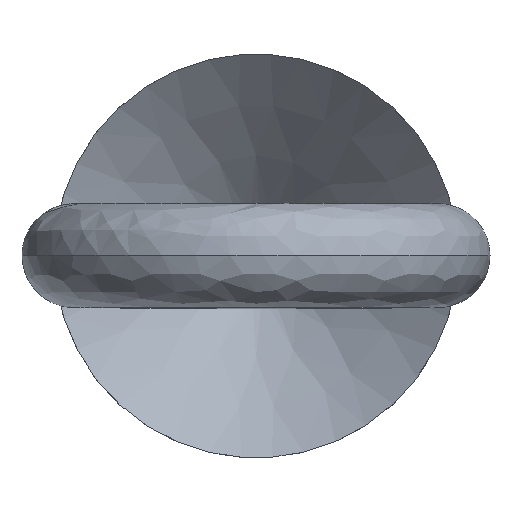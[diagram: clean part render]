
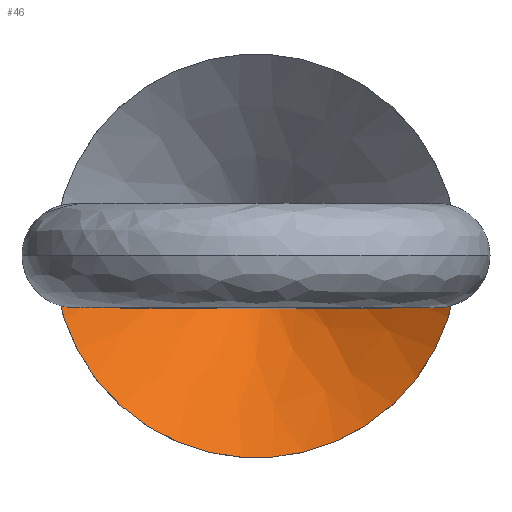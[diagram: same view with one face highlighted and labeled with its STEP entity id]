
A CAD part, top view. The second image highlights one B-rep face of the part: STEP entity #46.
In plain terms, the highlighted free-form (B-spline) face has degree [1, 2] with [2, 5] control points.
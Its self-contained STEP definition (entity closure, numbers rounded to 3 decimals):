
#17=FACE_BOUND('',#111,.T.);
#18=FACE_BOUND('',#112,.T.);
#46=ADVANCED_FACE('',(#77,#17,#18),#537,.T.);
#77=FACE_OUTER_BOUND('',#110,.T.);
#110=EDGE_LOOP('',(#268,#269,#270,#271));
#111=EDGE_LOOP('',(#272,#273,#274));
#112=EDGE_LOOP('',(#275,#276,#277));
#268=ORIENTED_EDGE('',*,*,#375,.T.);
#269=ORIENTED_EDGE('',*,*,#370,.T.);
#270=ORIENTED_EDGE('',*,*,#362,.F.);
#271=ORIENTED_EDGE('',*,*,#341,.T.);
#272=ORIENTED_EDGE('',*,*,#351,.T.);
#273=ORIENTED_EDGE('',*,*,#347,.T.);
#274=ORIENTED_EDGE('',*,*,#342,.T.);
#275=ORIENTED_EDGE('',*,*,#349,.T.);
#276=ORIENTED_EDGE('',*,*,#343,.T.);
#277=ORIENTED_EDGE('',*,*,#346,.T.);
#341=EDGE_CURVE('',#502,#521,#451,.T.);
#342=EDGE_CURVE('',#503,#504,#414,.T.);
#343=EDGE_CURVE('',#505,#506,#415,.T.);
#346=EDGE_CURVE('',#506,#511,#454,.T.);
#347=EDGE_CURVE('',#512,#503,#455,.T.);
#349=EDGE_CURVE('',#511,#505,#417,.T.);
#351=EDGE_CURVE('',#504,#512,#419,.T.);
#362=EDGE_CURVE('',#502,#499,#429,.T.);
#370=EDGE_CURVE('',#518,#499,#464,.T.);
#375=EDGE_CURVE('',#521,#518,#432,.T.);
#414=B_SPLINE_CURVE_WITH_KNOTS('',3,(#1121,#1122,#1123,#1124),
 .UNSPECIFIED.,.F.,.F.,(4,4),(0.,0.353),
 .UNSPECIFIED.);
#415=B_SPLINE_CURVE_WITH_KNOTS('',3,(#1125,#1126,#1127,#1128),
 .UNSPECIFIED.,.F.,.F.,(4,4),(2.288,2.654),
 .UNSPECIFIED.);
#417=B_SPLINE_CURVE_WITH_KNOTS('',3,(#1145,#1146,#1147,#1148),
 .UNSPECIFIED.,.F.,.F.,(4,4),(0.,0.228),.UNSPECIFIED.);
#419=B_SPLINE_CURVE_WITH_KNOTS('',3,(#1153,#1154,#1155,#1156),
 .UNSPECIFIED.,.F.,.F.,(4,4),(0.045,0.264),
 .UNSPECIFIED.);
#429=B_SPLINE_CURVE_WITH_KNOTS('',1,(#1181,#1182),.UNSPECIFIED.,.F.,.F.,
(2,2),(0.862,3.347),.UNSPECIFIED.);
#432=B_SPLINE_CURVE_WITH_KNOTS('',1,(#1230,#1231),.UNSPECIFIED.,.F.,.F.,
(2,2),(0.862,3.347),.UNSPECIFIED.);
#451=(
BOUNDED_CURVE()
B_SPLINE_CURVE(2,(#1116,#1117,#1118,#1119,#1120),.UNSPECIFIED.,.F.,.F.)
B_SPLINE_CURVE_WITH_KNOTS((3,2,3),(-24.39,-18.293,
-12.195),.UNSPECIFIED.)
CURVE()
GEOMETRIC_REPRESENTATION_ITEM()
RATIONAL_B_SPLINE_CURVE((1.,0.707,1.,0.707,1.))
REPRESENTATION_ITEM('')
);
#454=(
BOUNDED_CURVE()
B_SPLINE_CURVE(2,(#1135,#1136,#1137),.UNSPECIFIED.,.F.,.F.)
B_SPLINE_CURVE_WITH_KNOTS((3,3),(19.816,20.602),
 .UNSPECIFIED.)
CURVE()
GEOMETRIC_REPRESENTATION_ITEM()
RATIONAL_B_SPLINE_CURVE((1.,0.995,1.))
REPRESENTATION_ITEM('')
);
#455=(
BOUNDED_CURVE()
B_SPLINE_CURVE(2,(#1138,#1139,#1140),.UNSPECIFIED.,.F.,.F.)
B_SPLINE_CURVE_WITH_KNOTS((3,3),(16.009,16.77),
 .UNSPECIFIED.)
CURVE()
GEOMETRIC_REPRESENTATION_ITEM()
RATIONAL_B_SPLINE_CURVE((1.,0.995,1.))
REPRESENTATION_ITEM('')
);
#464=(
BOUNDED_CURVE()
B_SPLINE_CURVE(2,(#1212,#1213,#1214,#1215,#1216),.UNSPECIFIED.,.F.,.F.)
B_SPLINE_CURVE_WITH_KNOTS((3,2,3),(12.195,18.293,24.39),
 .UNSPECIFIED.)
CURVE()
GEOMETRIC_REPRESENTATION_ITEM()
RATIONAL_B_SPLINE_CURVE((1.,0.707,1.,0.707,1.))
REPRESENTATION_ITEM('')
);
#499=VERTEX_POINT('',#903);
#502=VERTEX_POINT('',#906);
#503=VERTEX_POINT('',#907);
#504=VERTEX_POINT('',#908);
#505=VERTEX_POINT('',#909);
#506=VERTEX_POINT('',#910);
#511=VERTEX_POINT('',#915);
#512=VERTEX_POINT('',#916);
#518=VERTEX_POINT('',#922);
#521=VERTEX_POINT('',#925);
#537=(
BOUNDED_SURFACE()
B_SPLINE_SURFACE(1,2,((#771,#772,#773,#774,#775),(#776,#777,#778,#779,#780)),
 .UNSPECIFIED.,.F.,.F.,.F.)
B_SPLINE_SURFACE_WITH_KNOTS((2,2),(3,2,3),(0.,3.347),(12.195,
18.293,24.39),.UNSPECIFIED.)
GEOMETRIC_REPRESENTATION_ITEM()
RATIONAL_B_SPLINE_SURFACE(((1.,0.707,1.,0.707,1.),
(1.,0.707,1.,0.707,1.)))
REPRESENTATION_ITEM('')
SURFACE()
);
#771=CARTESIAN_POINT('',(0.,0.,6.526));
#772=CARTESIAN_POINT('',(0.,0.,6.526));
#773=CARTESIAN_POINT('',(0.,0.,6.526));
#774=CARTESIAN_POINT('',(0.,0.,6.526));
#775=CARTESIAN_POINT('',(0.,0.,6.526));
#776=CARTESIAN_POINT('',(-3.882,0.,9.873));
#777=CARTESIAN_POINT('',(-3.882,-3.882,9.873));
#778=CARTESIAN_POINT('',(0.,-3.882,9.873));
#779=CARTESIAN_POINT('',(3.882,-3.882,9.873));
#780=CARTESIAN_POINT('',(3.882,0.,9.873));
#903=CARTESIAN_POINT('',(3.882,0.,9.873));
#906=CARTESIAN_POINT('',(1.,0.,7.388));
#907=CARTESIAN_POINT('',(-0.417,-1.005,7.465));
#908=CARTESIAN_POINT('',(-0.739,-1.006,7.603));
#909=CARTESIAN_POINT('',(0.751,-1.006,7.609));
#910=CARTESIAN_POINT('',(0.417,-1.005,7.465));
#915=CARTESIAN_POINT('',(0.607,-0.904,7.465));
#916=CARTESIAN_POINT('',(-0.601,-0.908,7.465));
#922=CARTESIAN_POINT('',(-3.882,0.,9.873));
#925=CARTESIAN_POINT('',(-1.,0.,7.388));
#1116=CARTESIAN_POINT('',(1.,0.,7.388));
#1117=CARTESIAN_POINT('',(1.,-1.,7.388));
#1118=CARTESIAN_POINT('',(0.,-1.,7.388));
#1119=CARTESIAN_POINT('',(-1.,-1.,7.388));
#1120=CARTESIAN_POINT('',(-1.,0.,7.388));
#1121=CARTESIAN_POINT('',(-0.417,-1.005,7.465));
#1122=CARTESIAN_POINT('',(-0.525,-1.006,7.501));
#1123=CARTESIAN_POINT('',(-0.634,-1.006,7.549));
#1124=CARTESIAN_POINT('',(-0.739,-1.006,7.603));
#1125=CARTESIAN_POINT('',(0.751,-1.006,7.609));
#1126=CARTESIAN_POINT('',(0.642,-1.006,7.553));
#1127=CARTESIAN_POINT('',(0.53,-1.006,7.503));
#1128=CARTESIAN_POINT('',(0.417,-1.005,7.465));
#1135=CARTESIAN_POINT('',(0.417,-1.005,7.465));
#1136=CARTESIAN_POINT('',(0.517,-0.964,7.465));
#1137=CARTESIAN_POINT('',(0.607,-0.904,7.465));
#1138=CARTESIAN_POINT('',(-0.601,-0.908,7.465));
#1139=CARTESIAN_POINT('',(-0.514,-0.965,7.465));
#1140=CARTESIAN_POINT('',(-0.417,-1.005,7.465));
#1145=CARTESIAN_POINT('',(0.607,-0.904,7.465));
#1146=CARTESIAN_POINT('',(0.655,-0.938,7.513));
#1147=CARTESIAN_POINT('',(0.703,-0.973,7.561));
#1148=CARTESIAN_POINT('',(0.751,-1.006,7.609));
#1153=CARTESIAN_POINT('',(-0.739,-1.006,7.603));
#1154=CARTESIAN_POINT('',(-0.693,-0.974,7.556));
#1155=CARTESIAN_POINT('',(-0.647,-0.941,7.51));
#1156=CARTESIAN_POINT('',(-0.601,-0.908,7.465));
#1181=CARTESIAN_POINT('',(1.,0.,7.388));
#1182=CARTESIAN_POINT('',(3.882,0.,9.873));
#1212=CARTESIAN_POINT('',(-3.882,0.,9.873));
#1213=CARTESIAN_POINT('',(-3.882,-3.882,9.873));
#1214=CARTESIAN_POINT('',(0.,-3.882,9.873));
#1215=CARTESIAN_POINT('',(3.882,-3.882,9.873));
#1216=CARTESIAN_POINT('',(3.882,0.,9.873));
#1230=CARTESIAN_POINT('',(-1.,0.,7.388));
#1231=CARTESIAN_POINT('',(-3.882,0.,9.873));
